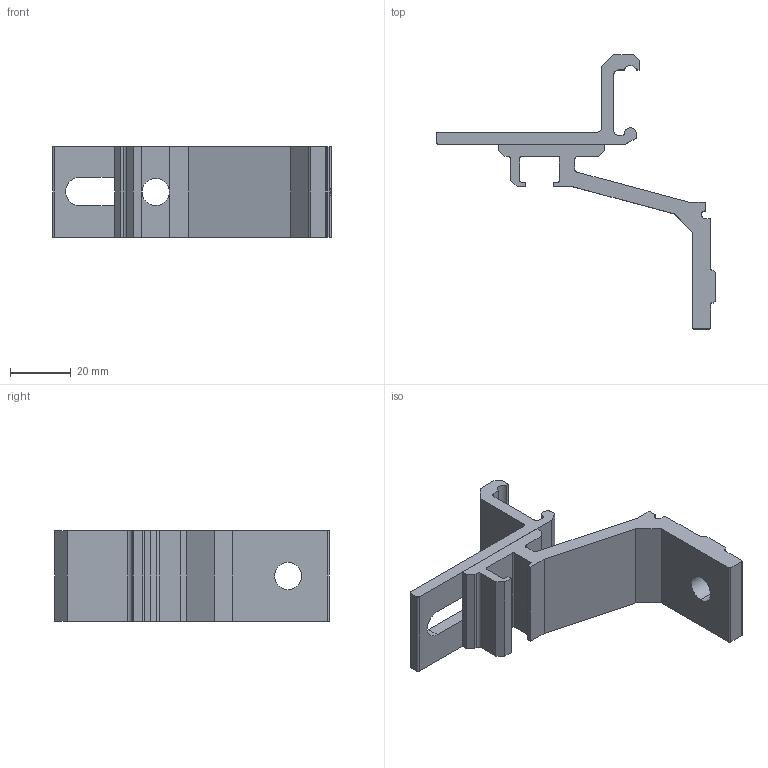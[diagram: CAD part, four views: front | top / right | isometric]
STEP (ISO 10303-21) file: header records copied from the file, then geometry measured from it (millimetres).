
FILE_DESCRIPTION (( 'STEP AP214' ), '1' );
FILE_NAME ('FABER - FGRA 41x30x52.STEP', '2017-04-05T12:11:22', ( '' ), ( '' ), 'SwSTEP 2.0', 'SolidWorks 2016', '' );
FILE_SCHEMA (( 'AUTOMOTIVE_DESIGN' ));
Length unit declared in the file: millimetre
Products named in the file (3): FABER - FGRA 41x30x52; Partie sup. FGRA-16X30X52 ET 41X30X52; Partie inf fgra-41X30X52
Assembly tree (2 placements, depth 2):
  FABER - FGRA 41x30x52
    Partie inf fgra-41X30X52
    Partie sup. FGRA-16X30X52 ET 41X30X52
Bounding box: 92.09 x 90.5 x 30 mm (x, y, z)
Volume: 30348.4 mm3; surface area: 16654.8 mm2
Topology: 2 solids, 2 shells, 85 faces, 246 edges, 164 vertices
Faces by surface type: plane 55, cylinder 30
Entity records: 3187 total; most frequent: CARTESIAN_POINT 503, ORIENTED_EDGE 492, DIRECTION 486, EDGE_CURVE 246, LINE 184, VECTOR 184, VERTEX_POINT 164, AXIS2_PLACEMENT_3D 151
